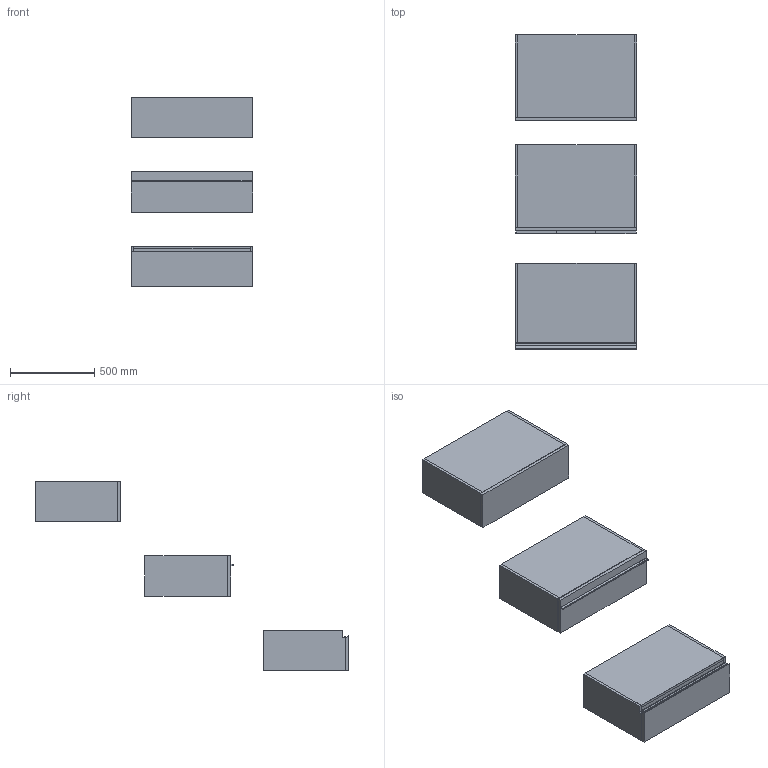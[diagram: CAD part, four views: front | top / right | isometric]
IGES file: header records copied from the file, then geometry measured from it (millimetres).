
Start section: Data from Parasolid IGES Translator 19.0.9, Copyright(c) 2006 Siemens PL M Software. All Rights Reserved.
Global section: file name: noorth-SI-H 24 D 51 W 72_8311.igs; native system: By Siemens PLM Incorporated; preprocessor: XPlus GENERIC/IGES 19.0.9; author: Noname; organization: Noname; date: 20200530.120908; units: metre
Bounding box: 720.01 x 1857.1 x 1120 mm (x, y, z)
Volume: 53783128.3 mm3; surface area: 7842795.8 mm2
Topology: 20 solids, 20 shells, 178 faces, 382 edges, 234 vertices
Faces by surface type: plane 134, extrusion 16, bspline 16, cylinder 12
